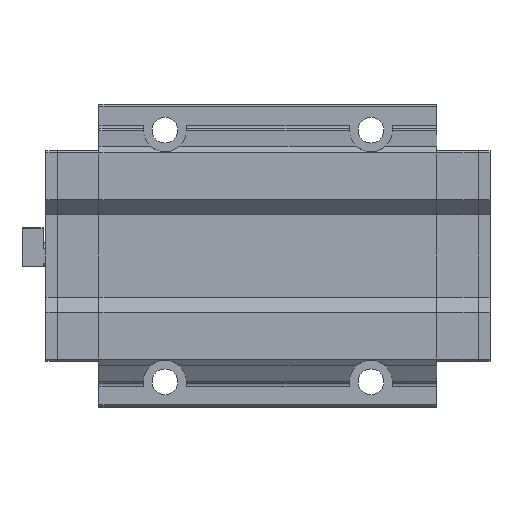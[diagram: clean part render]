
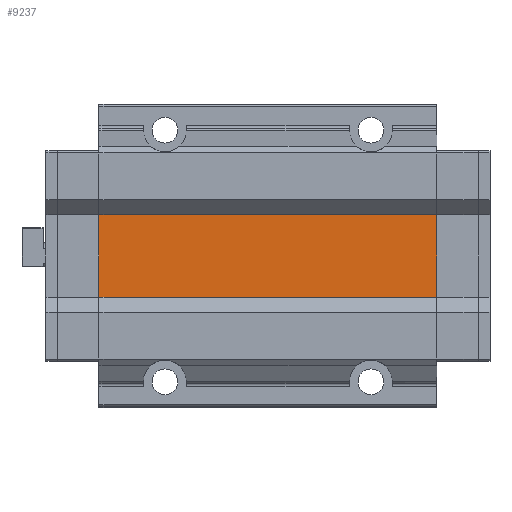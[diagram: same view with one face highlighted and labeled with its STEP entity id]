
A CAD part, front view. The second image highlights one B-rep face of the part: STEP entity #9237.
In plain terms, the highlighted planar face has unit normal (0, -1, 0).
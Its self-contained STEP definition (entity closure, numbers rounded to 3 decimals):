
#39 = EDGE_CURVE ( 'NONE', #7110, #1299, #6881, .T. ) ;
#1299 = VERTEX_POINT ( 'NONE', #11325 ) ;
#1420 = CARTESIAN_POINT ( 'NONE',  ( -102.4, 0., 19.55 ) ) ;
#2352 = VERTEX_POINT ( 'NONE', #11637 ) ;
#2364 = DIRECTION ( 'NONE',  ( -1., 0., 0. ) ) ;
#2726 = DIRECTION ( 'NONE',  ( 0., 0., -1. ) ) ;
#3190 = DIRECTION ( 'NONE',  ( 1., 0., 0. ) ) ;
#3252 = CARTESIAN_POINT ( 'NONE',  ( 96.9, 0., -26.5 ) ) ;
#3437 = VECTOR ( 'NONE', #3190, 1000. ) ;
#3625 = EDGE_LOOP ( 'NONE', ( #6821, #4840, #6264, #10837 ) ) ;
#4137 = PLANE ( 'NONE',  #8536 ) ;
#4256 = FACE_OUTER_BOUND ( 'NONE', #3625, .T. ) ;
#4404 = EDGE_CURVE ( 'NONE', #9267, #1299, #11788, .T. ) ;
#4822 = CARTESIAN_POINT ( 'NONE',  ( -77.9, 0., -13.25 ) ) ;
#4840 = ORIENTED_EDGE ( 'NONE', *, *, #8363, .F. ) ;
#4923 = DIRECTION ( 'NONE',  ( 1., 0., 0. ) ) ;
#5508 = EDGE_CURVE ( 'NONE', #7110, #2352, #6493, .T. ) ;
#5748 = VECTOR ( 'NONE', #2726, 1000. ) ;
#5939 = LINE ( 'NONE', #1420, #10047 ) ;
#6264 = ORIENTED_EDGE ( 'NONE', *, *, #5508, .F. ) ;
#6493 = LINE ( 'NONE', #4822, #7137 ) ;
#6821 = ORIENTED_EDGE ( 'NONE', *, *, #4404, .F. ) ;
#6881 = LINE ( 'NONE', #9750, #3437 ) ;
#7110 = VERTEX_POINT ( 'NONE', #7495 ) ;
#7137 = VECTOR ( 'NONE', #8287, 1000. ) ;
#7420 = CARTESIAN_POINT ( 'NONE',  ( 77.9, 0., 19.55 ) ) ;
#7495 = CARTESIAN_POINT ( 'NONE',  ( -77.9, 0., -19.55 ) ) ;
#8287 = DIRECTION ( 'NONE',  ( 0., 0., 1. ) ) ;
#8363 = EDGE_CURVE ( 'NONE', #2352, #9267, #5939, .T. ) ;
#8536 = AXIS2_PLACEMENT_3D ( 'NONE', #3252, #10540, #2364 ) ;
#9237 = ADVANCED_FACE ( 'NONE', ( #4256 ), #4137, .F. ) ;
#9267 = VERTEX_POINT ( 'NONE', #7420 ) ;
#9750 = CARTESIAN_POINT ( 'NONE',  ( -102.4, 0., -19.55 ) ) ;
#10047 = VECTOR ( 'NONE', #4923, 1000. ) ;
#10540 = DIRECTION ( 'NONE',  ( 0., 1., 0. ) ) ;
#10837 = ORIENTED_EDGE ( 'NONE', *, *, #39, .T. ) ;
#11325 = CARTESIAN_POINT ( 'NONE',  ( 77.9, 0., -19.55 ) ) ;
#11637 = CARTESIAN_POINT ( 'NONE',  ( -77.9, 0., 19.55 ) ) ;
#11732 = CARTESIAN_POINT ( 'NONE',  ( 77.9, 0., -13.25 ) ) ;
#11788 = LINE ( 'NONE', #11732, #5748 ) ;
